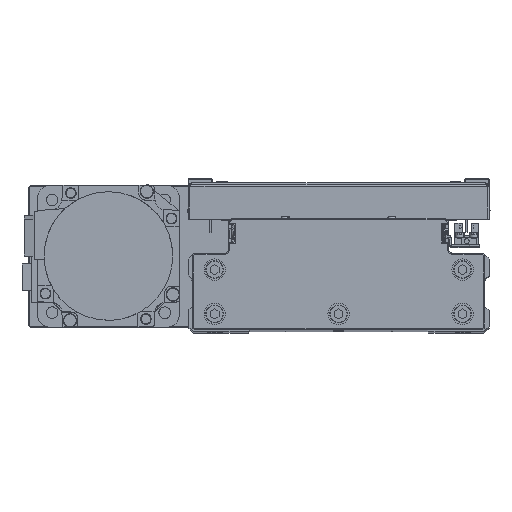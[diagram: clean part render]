
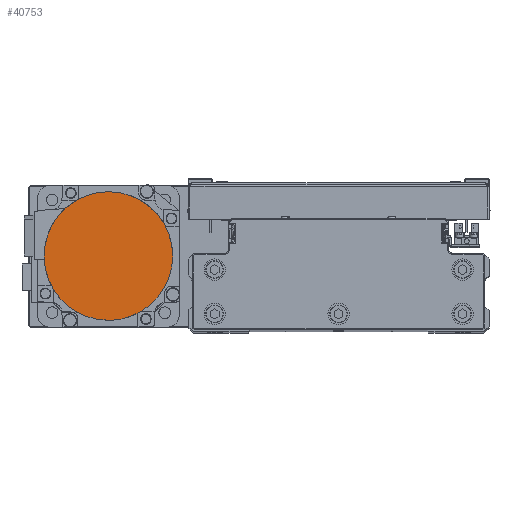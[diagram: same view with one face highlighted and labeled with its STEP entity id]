
A CAD part, top view. The second image highlights one B-rep face of the part: STEP entity #40753.
In plain terms, the highlighted planar face has unit normal (0, 0, 1) as drawn and (0, 0, -1) by its records, which use the part's own axes.
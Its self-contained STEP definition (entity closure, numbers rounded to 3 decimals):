
#1530 = CARTESIAN_POINT ( 'NONE',  ( -11.696, -34.446, -122.2 ) ) ;
#1773 = VERTEX_POINT ( 'NONE', #14010 ) ;
#1784 = CARTESIAN_POINT ( 'NONE',  ( -36.3, 0., -122.2 ) ) ;
#1872 = CARTESIAN_POINT ( 'NONE',  ( -18.192, 31.502, -122.2 ) ) ;
#2790 = AXIS2_PLACEMENT_3D ( 'NONE', #16301, #29948, #43572 ) ;
#4879 = CARTESIAN_POINT ( 'NONE',  ( -22.143, -28.862, -122.2 ) ) ;
#4925 = B_SPLINE_CURVE_WITH_KNOTS ( 'NONE', 3,
 ( #8575, #22231, #35859, #5218, #18865, #32505, #1872, #15501, #29167, #42783, #12129, #25811, #39435, #8791, #22455, #36084, #5436, #19086 ),
 .UNSPECIFIED., .F., .F.,
 ( 4, 2, 2, 2, 2, 2, 2, 2, 4 ),
 ( 0., 0.125, 0.25, 0.375, 0.5, 0.625, 0.75, 0.875, 1. ),
 .UNSPECIFIED. ) ;
#5218 = CARTESIAN_POINT ( 'NONE',  ( -9.412, 35.139, -122.2 ) ) ;
#5395 = DIRECTION ( 'NONE',  ( -1., 0., 0. ) ) ;
#5436 = CARTESIAN_POINT ( 'NONE',  ( -36.3, 2.376, -122.2 ) ) ;
#5947 = DIRECTION ( 'NONE',  ( 1., 0., 0. ) ) ;
#6230 = CARTESIAN_POINT ( 'NONE',  ( 36.3, 0., -122.2 ) ) ;
#7718 = ORIENTED_EDGE ( 'NONE', *, *, #21890, .F. ) ;
#8226 = CARTESIAN_POINT ( 'NONE',  ( -28.862, -22.143, -122.2 ) ) ;
#8575 = CARTESIAN_POINT ( 'NONE',  ( 0., 36.3, -122.2 ) ) ;
#8791 = CARTESIAN_POINT ( 'NONE',  ( -34.446, 11.696, -122.2 ) ) ;
#9300 = PLANE ( 'NONE',  #37675 ) ;
#11566 = CARTESIAN_POINT ( 'NONE',  ( -34.446, -11.696, -122.2 ) ) ;
#11792 = CARTESIAN_POINT ( 'NONE',  ( 0., -36.3, -122.2 ) ) ;
#12129 = CARTESIAN_POINT ( 'NONE',  ( -28.862, 22.143, -122.2 ) ) ;
#13812 = EDGE_CURVE ( 'NONE', #30019, #28363, #4925, .T. ) ;
#13850 = ORIENTED_EDGE ( 'NONE', *, *, #22316, .F. ) ;
#14010 = CARTESIAN_POINT ( 'NONE',  ( 0., -36.3, -122.2 ) ) ;
#15156 = CARTESIAN_POINT ( 'NONE',  ( -9.412, -35.139, -122.2 ) ) ;
#15410 = CARTESIAN_POINT ( 'NONE',  ( -36.3, -2.376, -122.2 ) ) ;
#15501 = CARTESIAN_POINT ( 'NONE',  ( -22.143, 28.862, -122.2 ) ) ;
#15535 = EDGE_CURVE ( 'NONE', #1773, #29348, #22088, .T. ) ;
#16301 = CARTESIAN_POINT ( 'NONE',  ( 0., 0., -122.2 ) ) ;
#17939 = CIRCLE ( 'NONE', #42931, 36.3 ) ;
#18518 = CARTESIAN_POINT ( 'NONE',  ( -18.192, -31.502, -122.2 ) ) ;
#18865 = CARTESIAN_POINT ( 'NONE',  ( -11.696, 34.446, -122.2 ) ) ;
#19086 = CARTESIAN_POINT ( 'NONE',  ( -36.3, 0., -122.2 ) ) ;
#21872 = CARTESIAN_POINT ( 'NONE',  ( -27.348, -23.988, -122.2 ) ) ;
#21890 = EDGE_CURVE ( 'NONE', #29348, #30019, #17939, .T. ) ;
#22088 = CIRCLE ( 'NONE', #2790, 36.3 ) ;
#22231 = CARTESIAN_POINT ( 'NONE',  ( -2.376, 36.3, -122.2 ) ) ;
#22316 = EDGE_CURVE ( 'NONE', #28363, #1773, #25124, .T. ) ;
#22416 = CARTESIAN_POINT ( 'NONE',  ( 0., 0., -122.2 ) ) ;
#22455 = CARTESIAN_POINT ( 'NONE',  ( -35.139, 9.412, -122.2 ) ) ;
#22526 = ORIENTED_EDGE ( 'NONE', *, *, #13812, .F. ) ;
#22954 = CARTESIAN_POINT ( 'NONE',  ( 0., 0., -122.2 ) ) ;
#24212 = ORIENTED_EDGE ( 'NONE', *, *, #15535, .F. ) ;
#24971 = EDGE_LOOP ( 'NONE', ( #24212, #13850, #22526, #7718 ) ) ;
#25124 = B_SPLINE_CURVE_WITH_KNOTS ( 'NONE', 3,
 ( #1784, #15410, #29072, #42700, #11566, #25256, #38868, #8226, #21872, #35522, #4879, #18518, #32169, #1530, #15156, #28822, #42440, #11792 ),
 .UNSPECIFIED., .F., .F.,
 ( 4, 2, 2, 2, 2, 2, 2, 2, 4 ),
 ( 0., 0.125, 0.25, 0.375, 0.5, 0.625, 0.75, 0.875, 1. ),
 .UNSPECIFIED. ) ;
#25256 = CARTESIAN_POINT ( 'NONE',  ( -32.628, -16.086, -122.2 ) ) ;
#25811 = CARTESIAN_POINT ( 'NONE',  ( -31.502, 18.192, -122.2 ) ) ;
#28363 = VERTEX_POINT ( 'NONE', #42805 ) ;
#28822 = CARTESIAN_POINT ( 'NONE',  ( -4.752, -36.066, -122.2 ) ) ;
#29072 = CARTESIAN_POINT ( 'NONE',  ( -36.066, -4.752, -122.2 ) ) ;
#29167 = CARTESIAN_POINT ( 'NONE',  ( -23.988, 27.348, -122.2 ) ) ;
#29348 = VERTEX_POINT ( 'NONE', #6230 ) ;
#29948 = DIRECTION ( 'NONE',  ( 0., 0., 1. ) ) ;
#30019 = VERTEX_POINT ( 'NONE', #38497 ) ;
#32169 = CARTESIAN_POINT ( 'NONE',  ( -16.086, -32.628, -122.2 ) ) ;
#32505 = CARTESIAN_POINT ( 'NONE',  ( -16.086, 32.628, -122.2 ) ) ;
#35522 = CARTESIAN_POINT ( 'NONE',  ( -23.988, -27.348, -122.2 ) ) ;
#35859 = CARTESIAN_POINT ( 'NONE',  ( -4.752, 36.066, -122.2 ) ) ;
#36046 = DIRECTION ( 'NONE',  ( 0., 0., 1. ) ) ;
#36084 = CARTESIAN_POINT ( 'NONE',  ( -36.066, 4.752, -122.2 ) ) ;
#36585 = DIRECTION ( 'NONE',  ( 0., 0., 1. ) ) ;
#37675 = AXIS2_PLACEMENT_3D ( 'NONE', #22954, #36585, #5947 ) ;
#38497 = CARTESIAN_POINT ( 'NONE',  ( 0., 36.3, -122.2 ) ) ;
#38868 = CARTESIAN_POINT ( 'NONE',  ( -31.502, -18.192, -122.2 ) ) ;
#39435 = CARTESIAN_POINT ( 'NONE',  ( -32.628, 16.086, -122.2 ) ) ;
#39945 = FACE_OUTER_BOUND ( 'NONE', #24971, .T. ) ;
#40753 = ADVANCED_FACE ( 'NONE', ( #39945 ), #9300, .F. ) ;
#42440 = CARTESIAN_POINT ( 'NONE',  ( -2.376, -36.3, -122.2 ) ) ;
#42700 = CARTESIAN_POINT ( 'NONE',  ( -35.139, -9.412, -122.2 ) ) ;
#42783 = CARTESIAN_POINT ( 'NONE',  ( -27.348, 23.988, -122.2 ) ) ;
#42805 = CARTESIAN_POINT ( 'NONE',  ( -36.3, 0., -122.2 ) ) ;
#42931 = AXIS2_PLACEMENT_3D ( 'NONE', #22416, #36046, #5395 ) ;
#43572 = DIRECTION ( 'NONE',  ( -1., 0., 0. ) ) ;
